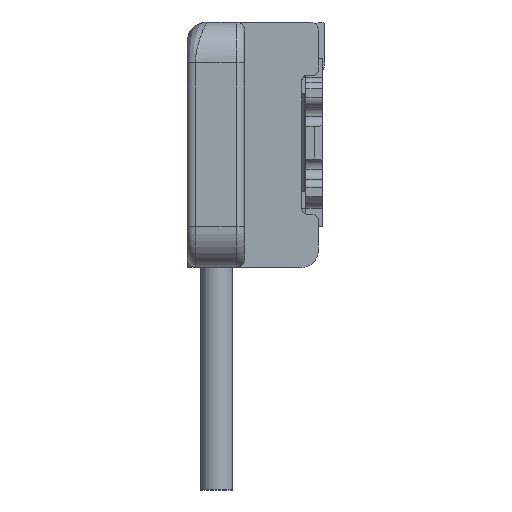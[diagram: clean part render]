
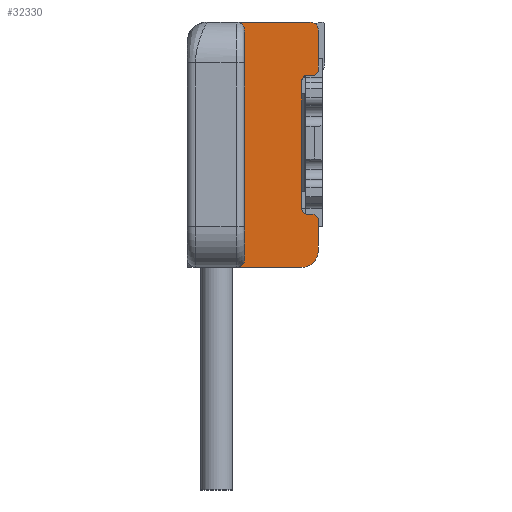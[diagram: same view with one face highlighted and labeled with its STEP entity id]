
A CAD part, left-side view. The second image highlights one B-rep face of the part: STEP entity #32330.
In plain terms, the highlighted planar face has unit normal (-1, 0, 0) as drawn and (1, 0, 0) by its records, which use the part's own axes.
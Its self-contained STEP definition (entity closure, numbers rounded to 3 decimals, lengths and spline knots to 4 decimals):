
#8267 = DIRECTION ( 'NONE',  ( 0., 0., 1. ) ) ;
#8268 = DIRECTION ( 'NONE',  ( 1., 0., 0. ) ) ;
#8276 = CIRCLE ( 'NONE', #8279, 0.2 ) ;
#8278 = CARTESIAN_POINT ( 'NONE',  ( 10.3, 1.6, -1.3 ) ) ;
#8279 = AXIS2_PLACEMENT_3D ( 'NONE', #8283, #8268, #8267 ) ;
#8283 = CARTESIAN_POINT ( 'NONE',  ( 10.3, 1.4, -1.3 ) ) ;
#8379 = CARTESIAN_POINT ( 'NONE',  ( 10.3, 0.6, -1.5 ) ) ;
#8433 = CARTESIAN_POINT ( 'NONE',  ( 10.3, 1.4, -1.5 ) ) ;
#8639 = DIRECTION ( 'NONE',  ( 0., 0., 1. ) ) ;
#8640 = DIRECTION ( 'NONE',  ( -1., 0., 0. ) ) ;
#8642 = CIRCLE ( 'NONE', #8650, 0.1 ) ;
#8650 = AXIS2_PLACEMENT_3D ( 'NONE', #8651, #8640, #8639 ) ;
#8651 = CARTESIAN_POINT ( 'NONE',  ( 10.3, 0.6, -1.4 ) ) ;
#9769 = CARTESIAN_POINT ( 'NONE',  ( 10.3, 1.6, 0.9 ) ) ;
#10143 = CARTESIAN_POINT ( 'NONE',  ( 10.3, 1.55, 0.85 ) ) ;
#10282 = LINE ( 'NONE', #10410, #10409 ) ;
#10371 = DIRECTION ( 'NONE',  ( 0., 0.707, 0.707 ) ) ;
#10372 = VECTOR ( 'NONE', #10371, 1000. ) ;
#10373 = LINE ( 'NONE', #10143, #10372 ) ;
#10408 = DIRECTION ( 'NONE',  ( 0., 0., -1. ) ) ;
#10409 = VECTOR ( 'NONE', #10408, 1000. ) ;
#10410 = CARTESIAN_POINT ( 'NONE',  ( 10.3, 1.4, 0.78 ) ) ;
#14328 = DIRECTION ( 'NONE',  ( 0., 0., 1. ) ) ;
#14330 = VECTOR ( 'NONE', #14328, 1000. ) ;
#14331 = LINE ( 'NONE', #14407, #14330 ) ;
#14407 = CARTESIAN_POINT ( 'NONE',  ( 10.3, 0.7, -1.5 ) ) ;
#14530 = CARTESIAN_POINT ( 'NONE',  ( 10.3, 0.7, 1.4 ) ) ;
#14553 = CARTESIAN_POINT ( 'NONE',  ( 10.3, 0.7, -1.4 ) ) ;
#16847 = CARTESIAN_POINT ( 'NONE',  ( 10.3, 1.4, -0.78 ) ) ;
#17410 = CARTESIAN_POINT ( 'NONE',  ( 10.3, 1.4, 0.78 ) ) ;
#17414 = VECTOR ( 'NONE', #17518, 1000. ) ;
#17415 = LINE ( 'NONE', #17534, #17414 ) ;
#17518 = DIRECTION ( 'NONE',  ( 0., -0.707, 0.707 ) ) ;
#17534 = CARTESIAN_POINT ( 'NONE',  ( 10.3, 1.6, -0.9 ) ) ;
#17656 = CARTESIAN_POINT ( 'NONE',  ( 10.3, 1.6, -0.9 ) ) ;
#18210 = CARTESIAN_POINT ( 'NONE',  ( 10.3, 1.55, -0.85 ) ) ;
#20764 = CARTESIAN_POINT ( 'NONE',  ( 10.3, 1.55, 0.85 ) ) ;
#26567 = VERTEX_POINT ( 'NONE', #14530 ) ;
#26572 = VERTEX_POINT ( 'NONE', #14553 ) ;
#26628 = EDGE_CURVE ( 'NONE', #26572, #26567, #14331, .T. ) ;
#26976 = VERTEX_POINT ( 'NONE', #16847 ) ;
#26978 = VERTEX_POINT ( 'NONE', #17410 ) ;
#26984 = EDGE_CURVE ( 'NONE', #27129, #27223, #17415, .T. ) ;
#27129 = VERTEX_POINT ( 'NONE', #17656 ) ;
#27223 = VERTEX_POINT ( 'NONE', #18210 ) ;
#27277 = VERTEX_POINT ( 'NONE', #20764 ) ;
#27349 = EDGE_CURVE ( 'NONE', #26978, #26976, #10282, .T. ) ;
#27388 = EDGE_CURVE ( 'NONE', #27277, #27557, #10373, .T. ) ;
#27557 = VERTEX_POINT ( 'NONE', #9769 ) ;
#32326 = ORIENTED_EDGE ( 'NONE', *, *, #39323, .T. ) ;
#32327 = VERTEX_POINT ( 'NONE', #74060 ) ;
#32328 = EDGE_CURVE ( 'NONE', #32331, #32329, #74123, .T. ) ;
#32329 = VERTEX_POINT ( 'NONE', #74034 ) ;
#32330 = ADVANCED_FACE ( 'NONE', ( #74130 ), #74128, .F. ) ;
#32331 = VERTEX_POINT ( 'NONE', #74115 ) ;
#32332 = ORIENTED_EDGE ( 'NONE', *, *, #32328, .T. ) ;
#32333 = ORIENTED_EDGE ( 'NONE', *, *, #32504, .T. ) ;
#32501 = ORIENTED_EDGE ( 'NONE', *, *, #26984, .T. ) ;
#32502 = EDGE_CURVE ( 'NONE', #39332, #39439, #74286, .T. ) ;
#32503 = EDGE_CURVE ( 'NONE', #32327, #26567, #74301, .T. ) ;
#32504 = EDGE_CURVE ( 'NONE', #32329, #32327, #74459, .T. ) ;
#32537 = ORIENTED_EDGE ( 'NONE', *, *, #32538, .T. ) ;
#32538 = EDGE_CURVE ( 'NONE', #27557, #32331, #74876, .T. ) ;
#32560 = ORIENTED_EDGE ( 'NONE', *, *, #32503, .T. ) ;
#32561 = EDGE_CURVE ( 'NONE', #39334, #27129, #74696, .T. ) ;
#32592 = EDGE_CURVE ( 'NONE', #32660, #26978, #74824, .T. ) ;
#32593 = ORIENTED_EDGE ( 'NONE', *, *, #32561, .T. ) ;
#32598 = ORIENTED_EDGE ( 'NONE', *, *, #27388, .T. ) ;
#32611 = EDGE_CURVE ( 'NONE', #27277, #32660, #74758, .T. ) ;
#32612 = ORIENTED_EDGE ( 'NONE', *, *, #32502, .F. ) ;
#32617 = VERTEX_POINT ( 'NONE', #74751 ) ;
#32654 = ORIENTED_EDGE ( 'NONE', *, *, #39618, .T. ) ;
#32660 = VERTEX_POINT ( 'NONE', #74812 ) ;
#32674 = ORIENTED_EDGE ( 'NONE', *, *, #32592, .F. ) ;
#32703 = EDGE_LOOP ( 'NONE', ( #32537, #32332, #32333, #32560, #32747, #32654, #32612, #32326, #32593, #32501, #32815, #32814, #32756, #32674, #32819, #32598 ) ) ;
#32747 = ORIENTED_EDGE ( 'NONE', *, *, #26628, .F. ) ;
#32750 = EDGE_CURVE ( 'NONE', #32617, #27223, #74962, .T. ) ;
#32756 = ORIENTED_EDGE ( 'NONE', *, *, #27349, .F. ) ;
#32757 = EDGE_CURVE ( 'NONE', #26976, #32617, #75012, .T. ) ;
#32814 = ORIENTED_EDGE ( 'NONE', *, *, #32757, .F. ) ;
#32815 = ORIENTED_EDGE ( 'NONE', *, *, #32750, .F. ) ;
#32819 = ORIENTED_EDGE ( 'NONE', *, *, #32611, .F. ) ;
#39323 = EDGE_CURVE ( 'NONE', #39332, #39334, #8276, .T. ) ;
#39332 = VERTEX_POINT ( 'NONE', #8433 ) ;
#39334 = VERTEX_POINT ( 'NONE', #8278 ) ;
#39439 = VERTEX_POINT ( 'NONE', #8379 ) ;
#39618 = EDGE_CURVE ( 'NONE', #26572, #39439, #8642, .T. ) ;
#74034 = CARTESIAN_POINT ( 'NONE',  ( 10.3, 1.5, 1.5 ) ) ;
#74060 = CARTESIAN_POINT ( 'NONE',  ( 10.3, 0.6, 1.5 ) ) ;
#74111 = DIRECTION ( 'NONE',  ( 0., 0., 1. ) ) ;
#74112 = DIRECTION ( 'NONE',  ( -1., 0., 0. ) ) ;
#74113 = CARTESIAN_POINT ( 'NONE',  ( 10.3, 1.6, -1.5 ) ) ;
#74115 = CARTESIAN_POINT ( 'NONE',  ( 10.3, 1.6, 1.4 ) ) ;
#74118 = DIRECTION ( 'NONE',  ( 0., 0., 1. ) ) ;
#74119 = DIRECTION ( 'NONE',  ( 1., 0., 0. ) ) ;
#74120 = CARTESIAN_POINT ( 'NONE',  ( 10.3, 1.5, 1.4 ) ) ;
#74121 = AXIS2_PLACEMENT_3D ( 'NONE', #74120, #74119, #74118 ) ;
#74123 = CIRCLE ( 'NONE', #74121, 0.1 ) ;
#74124 = AXIS2_PLACEMENT_3D ( 'NONE', #74113, #74112, #74111 ) ;
#74128 = PLANE ( 'NONE',  #74124 ) ;
#74130 = FACE_OUTER_BOUND ( 'NONE', #32703, .T. ) ;
#74286 = LINE ( 'NONE', #74313, #74476 ) ;
#74288 = DIRECTION ( 'NONE',  ( -1., 0., 0. ) ) ;
#74292 = AXIS2_PLACEMENT_3D ( 'NONE', #74310, #74288, #74463 ) ;
#74301 = CIRCLE ( 'NONE', #74292, 0.1 ) ;
#74304 = DIRECTION ( 'NONE',  ( 0., -1., 0. ) ) ;
#74310 = CARTESIAN_POINT ( 'NONE',  ( 10.3, 0.6, 1.4 ) ) ;
#74313 = CARTESIAN_POINT ( 'NONE',  ( 10.3, 1.6, -1.5 ) ) ;
#74454 = DIRECTION ( 'NONE',  ( 0., -1., 0. ) ) ;
#74456 = VECTOR ( 'NONE', #74454, 1000. ) ;
#74458 = CARTESIAN_POINT ( 'NONE',  ( 10.3, 1.6, 1.5 ) ) ;
#74459 = LINE ( 'NONE', #74458, #74456 ) ;
#74463 = DIRECTION ( 'NONE',  ( 0., 0., 1. ) ) ;
#74476 = VECTOR ( 'NONE', #74304, 1000. ) ;
#74691 = DIRECTION ( 'NONE',  ( 0., 0., 1. ) ) ;
#74692 = VECTOR ( 'NONE', #74691, 1000. ) ;
#74696 = LINE ( 'NONE', #74707, #74692 ) ;
#74707 = CARTESIAN_POINT ( 'NONE',  ( 10.3, 1.6, -1.5 ) ) ;
#74712 = CARTESIAN_POINT ( 'NONE',  ( 10.3, 1.6, -1.5 ) ) ;
#74718 = DIRECTION ( 'NONE',  ( 0., 0., 1. ) ) ;
#74748 = DIRECTION ( 'NONE',  ( 0., -1., 0. ) ) ;
#74749 = VECTOR ( 'NONE', #74748, 1000. ) ;
#74750 = CARTESIAN_POINT ( 'NONE',  ( 10.3, 1.6, 0.85 ) ) ;
#74751 = CARTESIAN_POINT ( 'NONE',  ( 10.3, 1.47, -0.85 ) ) ;
#74758 = LINE ( 'NONE', #74750, #74749 ) ;
#74812 = CARTESIAN_POINT ( 'NONE',  ( 10.3, 1.47, 0.85 ) ) ;
#74819 = DIRECTION ( 'NONE',  ( 0., 0., 1. ) ) ;
#74820 = DIRECTION ( 'NONE',  ( 1., 0., 0. ) ) ;
#74821 = CARTESIAN_POINT ( 'NONE',  ( 10.3, 1.47, 0.78 ) ) ;
#74824 = CIRCLE ( 'NONE', #74834, 0.07 ) ;
#74834 = AXIS2_PLACEMENT_3D ( 'NONE', #74821, #74820, #74819 ) ;
#74875 = VECTOR ( 'NONE', #74718, 1000. ) ;
#74876 = LINE ( 'NONE', #74712, #74875 ) ;
#74952 = CARTESIAN_POINT ( 'NONE',  ( 10.3, 1.47, -0.78 ) ) ;
#74962 = LINE ( 'NONE', #75011, #75010 ) ;
#75000 = DIRECTION ( 'NONE',  ( 0., 0., -1. ) ) ;
#75001 = DIRECTION ( 'NONE',  ( 1., 0., 0. ) ) ;
#75007 = AXIS2_PLACEMENT_3D ( 'NONE', #74952, #75001, #75000 ) ;
#75008 = DIRECTION ( 'NONE',  ( 0., 1., 0. ) ) ;
#75010 = VECTOR ( 'NONE', #75008, 1000. ) ;
#75011 = CARTESIAN_POINT ( 'NONE',  ( 10.3, 1.6, -0.85 ) ) ;
#75012 = CIRCLE ( 'NONE', #75007, 0.07 ) ;
